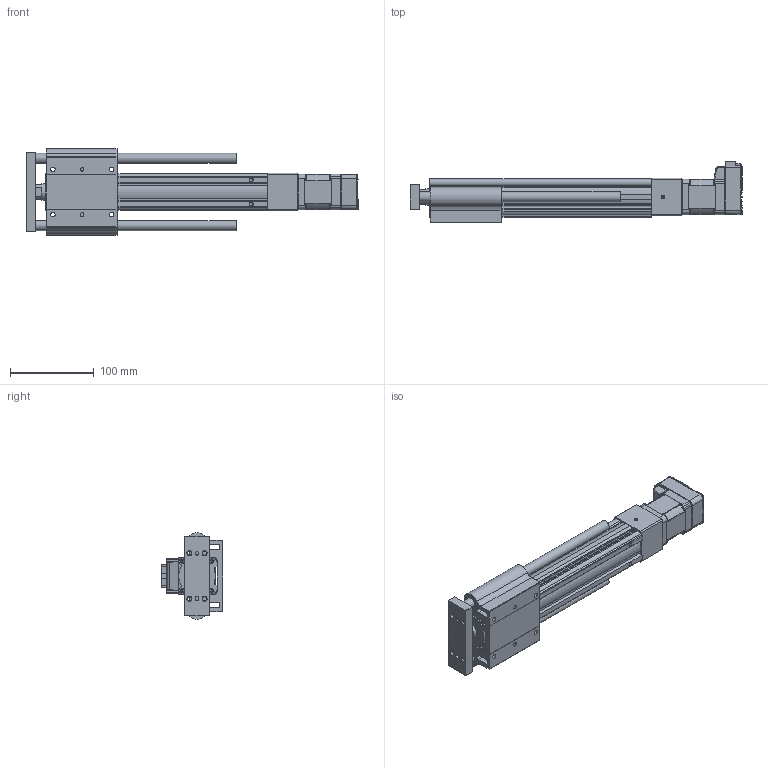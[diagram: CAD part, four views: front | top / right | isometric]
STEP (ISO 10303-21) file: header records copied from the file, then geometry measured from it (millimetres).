
FILE_DESCRIPTION (( 'STEP AP214' ), '1' );
FILE_NAME ('LEYG3(+)-25MDNM1□-150-17L.STEP', '2023-04-10T08:22:13', ( '' ), ( '' ), 'SwSTEP 2.0', 'SolidWorks 2019', '' );
FILE_SCHEMA (( 'AUTOMOTIVE_DESIGN' ));
Length unit declared in the file: millimetre
Products named in the file (6): CM3(+)-17L50A; LEYG3(+)-25MNM1□_ATTACH_150; LEYG3(+)-25NM1?_BODY_150; LEYG3(+)-25MDNM1□-150-17L; LEYG3(+)-25□DNM1_MOTOR Flange; LEYG3(+)-25MNM1?_ROD_150
Assembly tree (5 placements, depth 2):
  LEYG3(+)-25MDNM1□-150-17L
    LEYG3(+)-25NM1?_BODY_150
    LEYG3(+)-25MNM1?_ROD_150
    LEYG3(+)-25MNM1□_ATTACH_150
    LEYG3(+)-25□DNM1_MOTOR Flange
    CM3(+)-17L50A
Bounding box: 395.8 x 73.55 x 103 mm (x, y, z)
Volume: 875965.1 mm3; surface area: 196084.9 mm2
Topology: 5 solids, 5 shells, 936 faces, 2384 edges, 1501 vertices
Faces by surface type: plane 499, cylinder 272, cone 86, bspline 29, torus 29, sphere 21
Full cylindrical faces by diameter (mm): 2.5 x4, 3.5 x4, 4 x2, 4.2 x2, 4.9 x4, 5 x1, 5.4 x4, 8 x1, 11 x1, 12 x2, 22 x1, 33 x1
Entity records: 37797 total; most frequent: CARTESIAN_POINT 6834, ORIENTED_EDGE 4612, DIRECTION 4473, EDGE_CURVE 2306, AXIS2_PLACEMENT_3D 1494, VERTEX_POINT 1490, VECTOR 1485, LINE 1485
